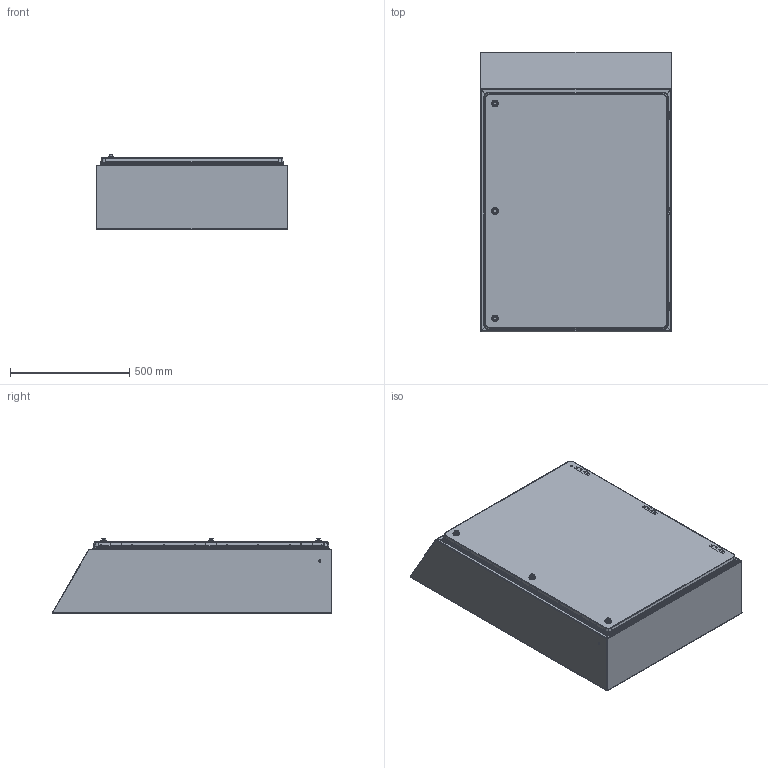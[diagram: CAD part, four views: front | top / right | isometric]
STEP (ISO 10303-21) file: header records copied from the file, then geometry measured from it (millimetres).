
FILE_DESCRIPTION (( 'STEP AP214' ), '1' );
FILE_NAME ('EY0801000300052.STEP', '2026-09-07T08:52:01', ( '' ), ( '' ), 'SwSTEP 2.0', 'SolidWorks 2021', '' );
FILE_SCHEMA (( 'AUTOMOTIVE_DESIGN' ));
Length unit declared in the file: millimetre
Products named in the file (28): 1890005; 166104010_standard; 9CAEKOSP01287; 1611404_standard; 1890865; 9SAEKOPA00030; 1648103004; 18100093; 99MS00102_HY STD; 9CAEKOSP01284; 9CAEKOMT14614; None_2; 9SAEKOMT00075; 9SAEKOMI00003; AS.HY_EKO.HY_ASSIEME_CERNIERA; UNI 5588 M6x 1_standard; MASSA_M6; AS.HY_EKO.HY_ASSIEME_CERNIERA_MOBILE; None; 9CAEKOPA13436_VISTA CON GUARNIZIONE; 013073310; 1890860; 1000-28; EY0801000300052; rosetta_5_4; Cicatron_M6x20; 1641001; 9SAEKOMI00003_MOBILE
Assembly tree (45 placements, depth 6):
  EY0801000300052
    9SAEKOMT00075
      9CAEKOMT14614
      MASSA_M6
        Cicatron_M6x20
        UNI 5588 M6x 1_standard  x2
        rosetta_5_4  x3
    9SAEKOPA00030
      9CAEKOPA13436_VISTA CON GUARNIZIONE
      9CAEKOSP01287  x2
      9CAEKOSP01284  x2
      9SAEKOMI00003  x2
        AS.HY_EKO.HY_ASSIEME_CERNIERA
          1890860
          1890865
          1890005
          1648103004
          99MS00102_HY STD  x3
            166104010_standard
            1641001
            1611404_standard
      9SAEKOMI00003_MOBILE
        AS.HY_EKO.HY_ASSIEME_CERNIERA_MOBILE
          1890860
          1890865
          1890005
          1648103004
          99MS00102_HY STD  x3
            166104010_standard
            1641001
            1611404_standard
      18100093  x3
        None
        None_2
        1000-28
      MASSA_M6
        Cicatron_M6x20
        UNI 5588 M6x 1_standard  x2
        rosetta_5_4  x3
    013073310
Bounding box: 800 x 1170.69 x 314.48 mm (x, y, z)
Volume: 6759390 mm3; surface area: 7880652.9 mm2
Topology: 82 solids, 93 shells, 6015 faces, 14514 edges, 8610 vertices
Faces by surface type: cylinder 1964, plane 1455, torus 1348, bspline 972, cone 216, sphere 60
Entity records: 103707 total; most frequent: CARTESIAN_POINT 36760, ORIENTED_EDGE 12566, DIRECTION 12073, EDGE_CURVE 6285, AXIS2_PLACEMENT_3D 4773, VERTEX_POINT 3722, EDGE_LOOP 2723, ADVANCED_FACE 2620
